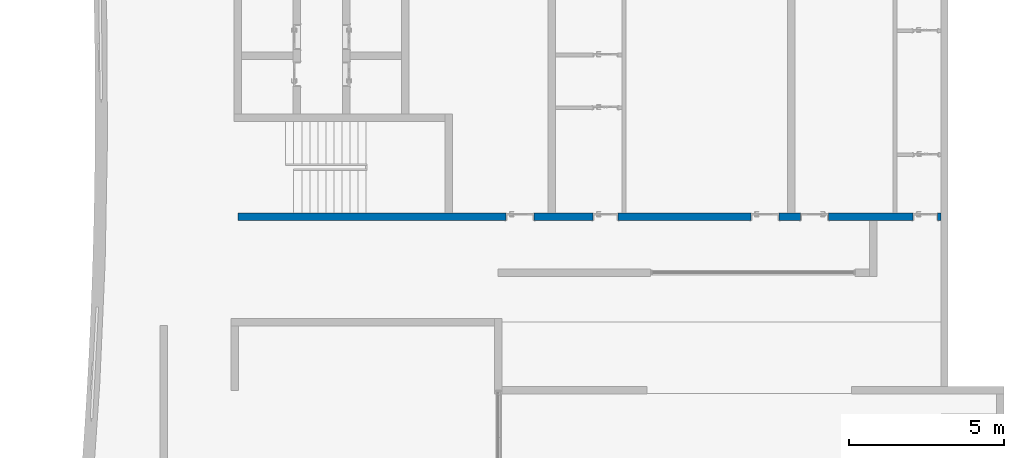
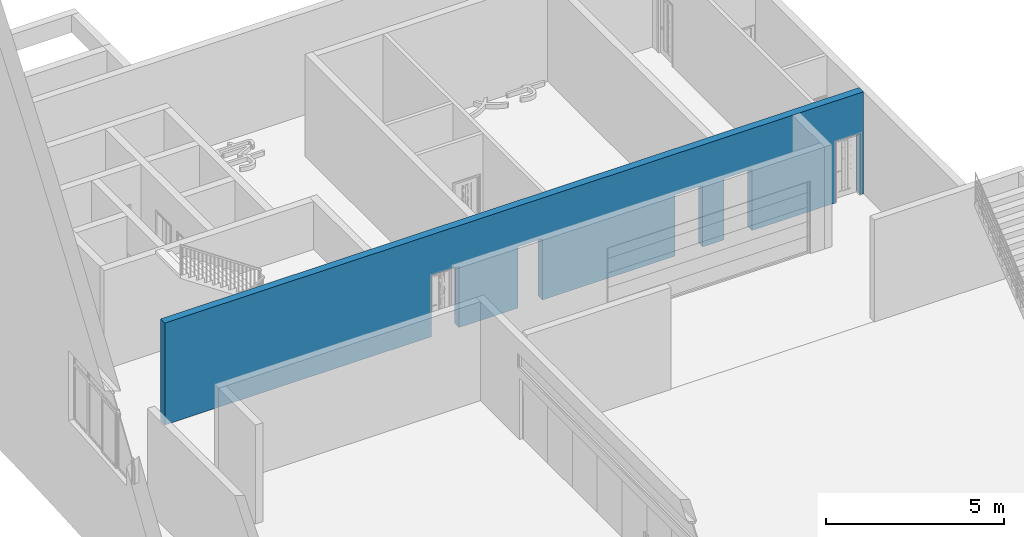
# One storey, part 8 of 24: 1 wall, 5 openings.
"""IFC2X3 building model written with IfcOpenShell, lengths in millimetres."""

from ifc_helpers import new_model, entity, si_unit, converted_unit, derived_unit, direction, frame, frame_2d, origin, place, context, subcontext, project, spatial, rectangle, extrude, material, layer, layer_set, layer_usage, type_object, element, save


model = new_model("IFC2X3")

# Units and contexts
model_context = context("Model", 3, precision=0.01, world=origin(), true_north=direction((6.12303176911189e-17, 1.0)))
body_context = subcontext(model_context, "Body", "Model", "MODEL_VIEW")
ifc_project = project(units=[si_unit("LENGTHUNIT", "METRE", prefix="MILLI"), si_unit("AREAUNIT", "SQUARE_METRE"), si_unit("VOLUMEUNIT", "CUBIC_METRE"), converted_unit("PLANEANGLEUNIT", "DEGREE", entity("IfcRatioMeasure", 0.0174532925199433), si_unit("PLANEANGLEUNIT", "RADIAN"), dimensions=[0, 0, 0, 0, 0, 0, 0]), si_unit("MASSUNIT", "GRAM", prefix="KILO"), derived_unit("MASSDENSITYUNIT", [(si_unit("MASSUNIT", "GRAM", prefix="KILO"), 1), (si_unit("LENGTHUNIT", "METRE"), -3)]), si_unit("TIMEUNIT", "SECOND"), si_unit("FREQUENCYUNIT", "HERTZ"), si_unit("THERMODYNAMICTEMPERATUREUNIT", "DEGREE_CELSIUS"), derived_unit("THERMALTRANSMITTANCEUNIT", [(si_unit("MASSUNIT", "GRAM", prefix="KILO"), 1), (si_unit("THERMODYNAMICTEMPERATUREUNIT", "KELVIN"), -1), (si_unit("TIMEUNIT", "SECOND"), -3)]), derived_unit("VOLUMETRICFLOWRATEUNIT", [(si_unit("LENGTHUNIT", "METRE"), 3), (si_unit("TIMEUNIT", "SECOND"), -1)]), si_unit("ELECTRICCURRENTUNIT", "AMPERE"), si_unit("ELECTRICVOLTAGEUNIT", "VOLT"), si_unit("POWERUNIT", "WATT"), si_unit("FORCEUNIT", "NEWTON", prefix="KILO"), si_unit("ILLUMINANCEUNIT", "LUX"), si_unit("LUMINOUSFLUXUNIT", "LUMEN"), si_unit("LUMINOUSINTENSITYUNIT", "CANDELA"), derived_unit("USERDEFINED", [(si_unit("MASSUNIT", "GRAM", prefix="KILO"), -1), (si_unit("LENGTHUNIT", "METRE"), -2), (si_unit("TIMEUNIT", "SECOND"), 3), (si_unit("LUMINOUSFLUXUNIT", "LUMEN"), 1)]), derived_unit("LINEARVELOCITYUNIT", [(si_unit("LENGTHUNIT", "METRE"), 1), (si_unit("TIMEUNIT", "SECOND"), -1)]), si_unit("PRESSUREUNIT", "PASCAL"), derived_unit("USERDEFINED", [(si_unit("LENGTHUNIT", "METRE"), -2), (si_unit("MASSUNIT", "GRAM", prefix="KILO"), 1), (si_unit("TIMEUNIT", "SECOND"), -2)])], contexts=[model_context])

# Site, building, storey
site_placement = place(None, origin())
site = spatial("IfcSite", under=ifc_project, at=site_placement, Name="表面", CompositionType="ELEMENT")
building_placement = place(site_placement, origin())
building = spatial("IfcBuilding", under=site, at=building_placement, CompositionType="ELEMENT")
storey_placement = place(building_placement, frame((0.0, 0.0, -3500.0)))
storey = spatial("IfcBuildingStorey", under=building, at=storey_placement, Name="-1F", CompositionType="ELEMENT", Elevation=-3500.0)

# Wall, openings
ifc_material_1 = material(Name="白色涂料")
ifc_layer_1 = layer(ifc_material_1, 10.0)
ifc_material_2 = material(Name="默认墙")
ifc_layer_2 = layer(ifc_material_2, 220.0)
ifc_layer_3 = layer(ifc_material_1, 10.0)
ifc_layer_set = layer_set([ifc_layer_1, ifc_layer_2, ifc_layer_3], Name="基本墙:粉刷墙240")
ifc_layer_usage = layer_usage(ifc_layer_set, "AXIS2", "NEGATIVE", 120.0)
wall_type = type_object("IfcWallType", Name="基本墙:粉刷墙240", PredefinedType="STANDARD", material=ifc_layer_set)
wall_placement = place(storey_placement, frame((10649.7500873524, -8707.84591297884, 0.0), z_axis=(0.0, 0.0, 1.0), x_axis=(-1.0, 0.0, 0.0)))
wall = element("IfcWallStandardCase", 1, at=wall_placement, inside=storey, type_object=wall_type, material=ifc_layer_usage, Name="基本墙:粉刷墙240", ObjectType="基本墙:粉刷墙240", context=body_context, shape_type="SweptSolid", body=[
    extrude(rectangle(XDim=22680.0, YDim=240.0, at=frame_2d((11340.0, -1.91846538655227e-13), x_axis=(-1.0, 0.0))), origin(), (0.0, 0.0, 1.0), 3500.0),
])
opening_1_placement = place(wall_placement, frame((14030.0, 120.0, 0.0)))
element("IfcOpeningElement", 2, at=opening_1_placement, cuts=wall, Name="装饰木门:M0921:1", ObjectType="Opening", context=body_context, shape_type="SweptSolid", body=[
    extrude(rectangle(XDim=2099.99999999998, YDim=900.0, at=frame_2d((1049.99999999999, 449.999999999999), x_axis=(1.0, 0.0))), frame((0.0, 0.0, 0.0), z_axis=(0.0, -1.0, 0.0), x_axis=(0.0, 0.0, 1.0)), (0.0, 0.0, 1.0), 240.0),
])
opening_2_placement = place(wall_placement, frame((11220.0, 120.0, 0.0)))
element("IfcOpeningElement", 3, at=opening_2_placement, cuts=wall, Name="装饰木门:M0821:1", ObjectType="Opening", context=body_context, shape_type="SweptSolid", body=[
    extrude(rectangle(XDim=2099.99999999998, YDim=800.0, at=frame_2d((1049.99999999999, 400.0), x_axis=(1.0, 0.0))), frame((0.0, 0.0, 0.0), z_axis=(0.0, -1.0, 0.0), x_axis=(0.0, 0.0, 1.0)), (0.0, 0.0, 1.0), 240.0),
])
opening_3_placement = place(wall_placement, frame((900.0, 120.0, 0.0)))
element("IfcOpeningElement", 4, at=opening_3_placement, cuts=wall, Name="装饰木门:M0821:1", ObjectType="Opening", context=body_context, shape_type="SweptSolid", body=[
    extrude(rectangle(XDim=2099.99999999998, YDim=800.0, at=frame_2d((1049.99999999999, 400.0), x_axis=(1.0, 0.0))), frame((0.0, 0.0, 0.0), z_axis=(0.0, -1.0, 0.0), x_axis=(0.0, 0.0, 1.0)), (0.0, 0.0, 1.0), 240.0),
])
opening_4_placement = place(wall_placement, frame((6120.0, 120.0, 0.0)))
element("IfcOpeningElement", 5, at=opening_4_placement, cuts=wall, Name="装饰木门:M0921:1", ObjectType="Opening", context=body_context, shape_type="SweptSolid", body=[
    extrude(rectangle(XDim=2099.99999999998, YDim=900.0, at=frame_2d((1049.99999999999, 450.0), x_axis=(1.0, 0.0))), frame((0.0, 0.0, 0.0), z_axis=(0.0, -1.0, 0.0), x_axis=(0.0, 0.0, 1.0)), (0.0, 0.0, 1.0), 240.0),
])
opening_5_placement = place(wall_placement, frame((4520.0, 120.0, 0.0)))
element("IfcOpeningElement", 6, at=opening_5_placement, cuts=wall, Name="装饰木门:M0921:1", ObjectType="Opening", context=body_context, shape_type="SweptSolid", body=[
    extrude(rectangle(XDim=2099.99999999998, YDim=900.0, at=frame_2d((1049.99999999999, 450.0), x_axis=(1.0, 0.0))), frame((0.0, 0.0, 0.0), z_axis=(0.0, -1.0, 0.0), x_axis=(0.0, 0.0, 1.0)), (0.0, 0.0, 1.0), 240.0),
])

save(model, "model.ifc")
